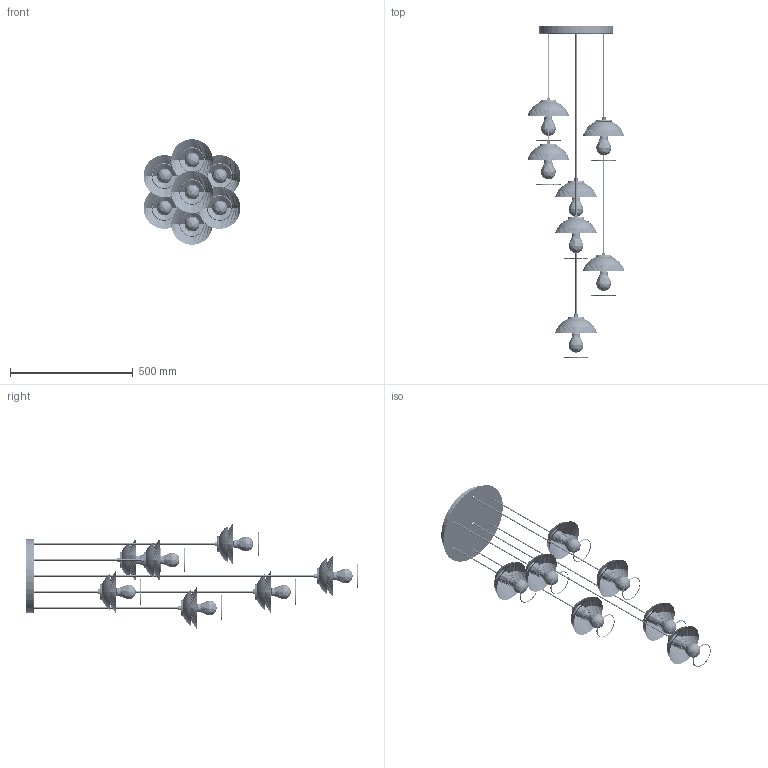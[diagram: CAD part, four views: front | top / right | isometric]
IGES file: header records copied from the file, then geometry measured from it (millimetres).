
Start section: SolidWorks IGES file using analytic representation for surfaces
Global section: file name: Z:\Modele 3D_WWW\_KOLEKCJE_WWW\VETRO\VETRO-VII-9131\VETRO-VII-9131.IGS; native system: SolidWorks 2020; preprocessor: SolidWorks 2020; author: gabriela.tworek; date: 210311.202614; units: millimetre
Bounding box: 394.62 x 1350.14 x 429.21 mm (x, y, z)
Surface area: 1862981.8 mm2 (no closed solid volume)
Topology: 0 solids, 0 shells, 2966 faces, 38495 edges, 38334 vertices
Faces by surface type: revolution 1683, bspline 1283
